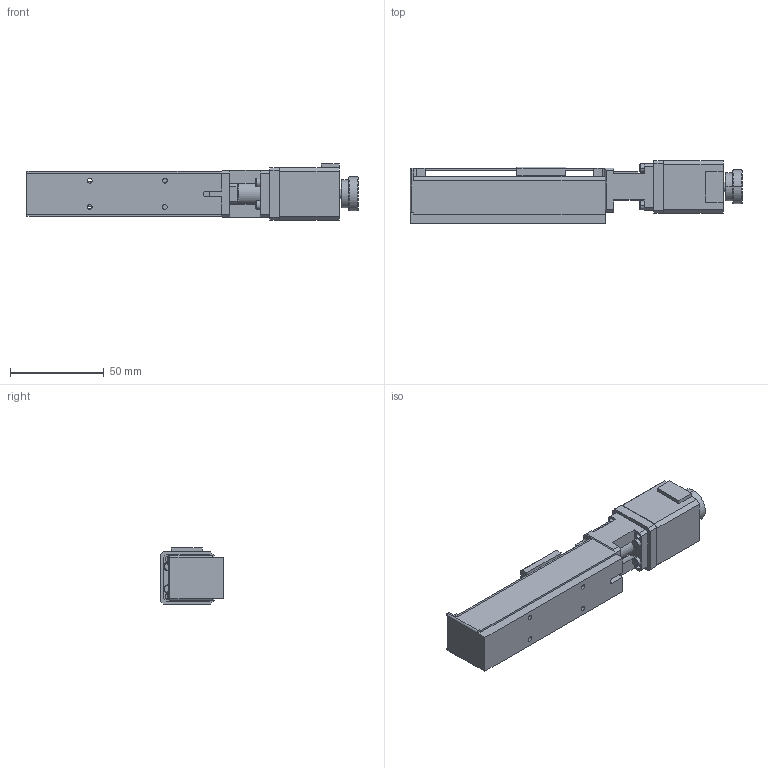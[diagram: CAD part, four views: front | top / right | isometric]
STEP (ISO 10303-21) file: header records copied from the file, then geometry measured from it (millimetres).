
FILE_DESCRIPTION (( 'STEP AP203' ), '1' );
FILE_NAME ('FAS-040-ER.STEP', '2015-08-25T04:56:24', ( '' ), ( '' ), 'SwSTEP 2.0', 'SolidWorks 2015', '' );
FILE_SCHEMA (( 'CONFIG_CONTROL_DESIGN' ));
Length unit declared in the file: millimetre
Products named in the file (1): FAS-040-ER
Bounding box: 177 x 33.5 x 30 mm (x, y, z)
Volume: 74738.7 mm3; surface area: 36196 mm2
Topology: 5 solids, 9 shells, 245 faces, 615 edges, 394 vertices
Faces by surface type: plane 147, cylinder 82, cone 14, sphere 2
Entity records: 7380 total; most frequent: CARTESIAN_POINT 1277, DIRECTION 1265, ORIENTED_EDGE 1226, EDGE_CURVE 613, VECTOR 437, LINE 437, AXIS2_PLACEMENT_3D 414, VERTEX_POINT 394
